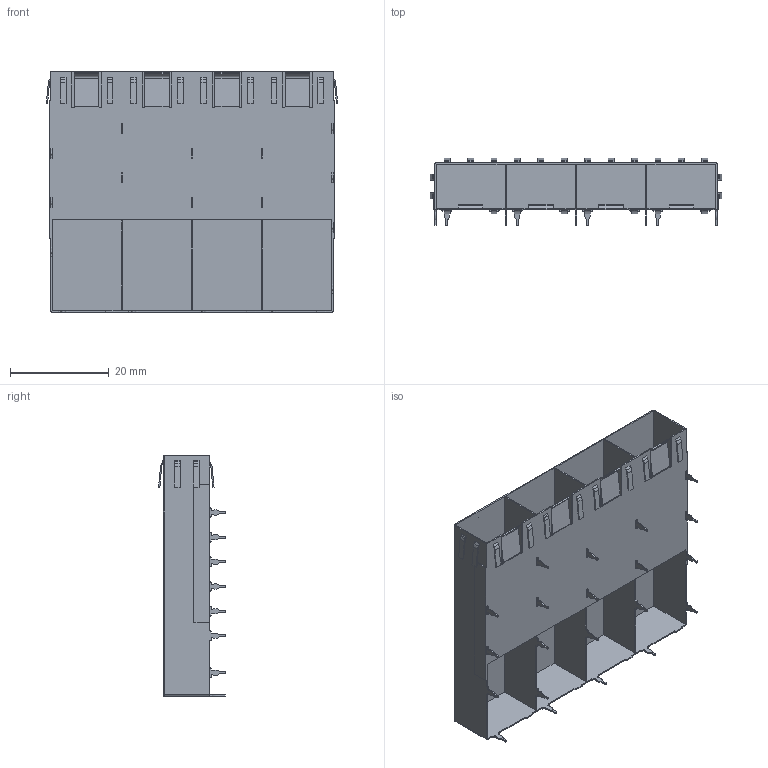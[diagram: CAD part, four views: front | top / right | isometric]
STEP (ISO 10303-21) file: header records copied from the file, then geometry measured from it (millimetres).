
FILE_DESCRIPTION (( 'STEP AP203' ), '1' );
FILE_NAME ('SFP 1X4 压接脚 鱼眼2.9 后4脚（3D-20221201）.STEP', '2022-12-01T00:19:23', ( '桑三博客' ), ( 'Www.SangSan.Cn' ), 'SwSTEP 2.0', 'SolidWorks 2018', '' );
FILE_SCHEMA (( 'CONFIG_CONTROL_DESIGN' ));
Length unit declared in the file: millimetre
Products named in the file (1): SFP 1X4 压接脚 鱼眼2.9 后4脚（3D-20221201）
Bounding box: 59.05 x 13.55 x 48.75 mm (x, y, z)
Volume: 1944.3 mm3; surface area: 15423.9 mm2
Topology: 14 solids, 14 shells, 948 faces, 2656 edges, 1760 vertices
Faces by surface type: plane 568, cylinder 378, sphere 2
Entity records: 30617 total; most frequent: CARTESIAN_POINT 5363, ORIENTED_EDGE 5308, DIRECTION 5308, EDGE_CURVE 2654, LINE 1898, VECTOR 1898, VERTEX_POINT 1760, AXIS2_PLACEMENT_3D 1705
